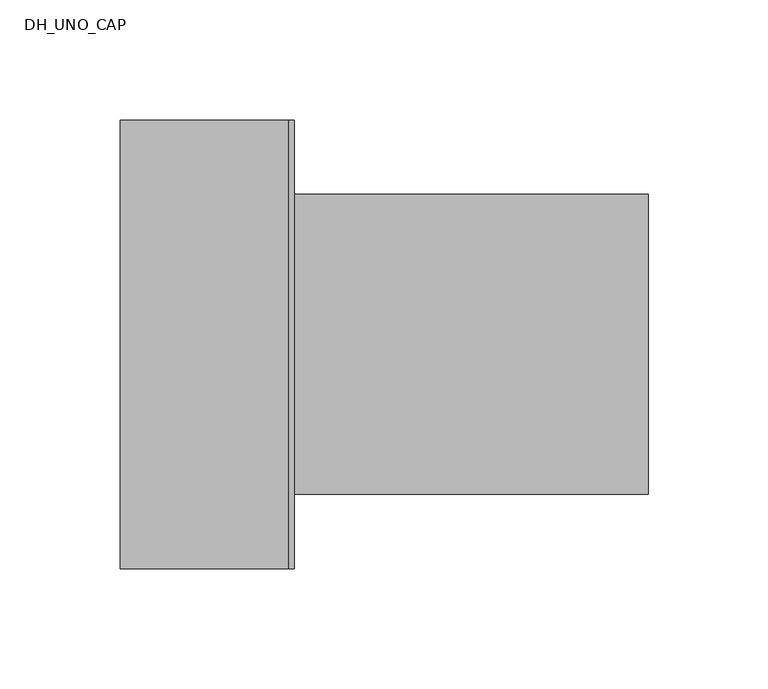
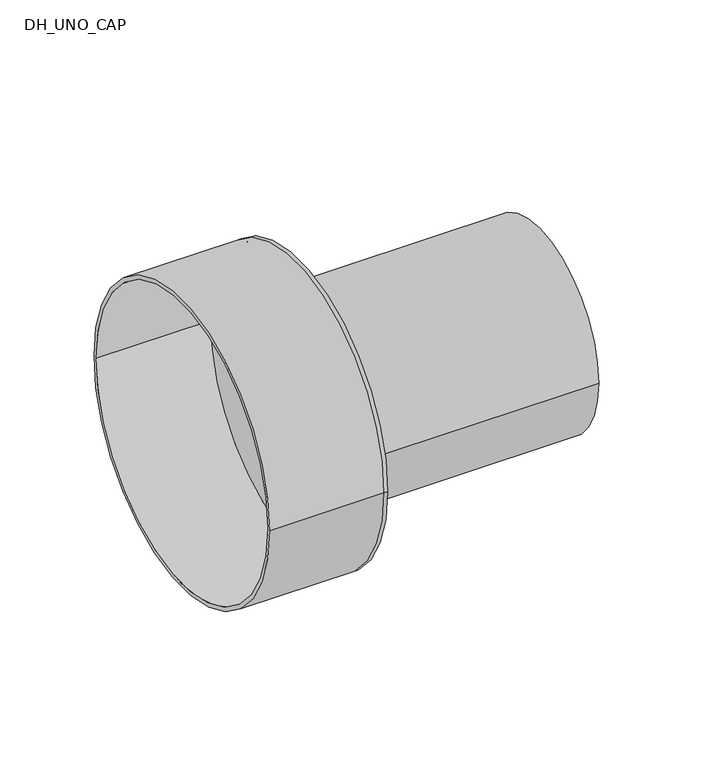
"""IFC4 building model written with IfcOpenShell, lengths in millimetres: pipe fitting geometry, DH_UNO_CAP : RAUTHERMEX UNO 11 Heating - Solid Cap."""

from ifc_helpers import new_model, si_unit, point, frame, origin, origin_2d, place, context, project, spatial, polyline, circle_curve, trimmed, segment, composite_curve, outline, extrude, source, transform, mapped, element, save
from ifc_brep_helpers import plane_surface, cylinder_surface, revolved_surface, advanced_brep


def dh_uno_cap_4363f071(model_context):
    return source(origin(), model_context, "Body", "SolidModel", [
        extrude(outline(composite_curve([segment(trimmed(circle_curve(origin_2d(), 62.5), [point((-62.5, 0.0))], [point((62.5, 0.0))], False, "CARTESIAN"), True, "CONTINUOUS"), segment(trimmed(circle_curve(origin_2d(), 62.5), [point((62.5, 0.0))], [point((-62.5, 0.0))], False, "CARTESIAN"), True, "CONTINUOUS")], self_intersect=False), holes=[composite_curve([segment(trimmed(circle_curve(origin_2d(), 51.1), [point((-51.1, 0.0))], [point((51.1, 0.0))], True, "CARTESIAN"), True, "CONTINUOUS"), segment(trimmed(circle_curve(origin_2d(), 51.1), [point((51.1, 0.0))], [point((-51.1, 0.0))], True, "CARTESIAN"), True, "CONTINUOUS")], self_intersect=False)]), frame((0.0, 0.0, 0.0), z_axis=(1.0, 0.0, 0.0), x_axis=(0.0, 1.0, 0.0)), (0.0, 0.0, 1.0), 150.0),
        advanced_brep(
        [(-70.0, -93.5, 0.0), (-70.0, 93.5, 0.0), (-70.0, -91.0, 0.0), (-70.0, 91.0, 0.0), (0.0, -91.0, 0.0), (0.0, 91.0, 0.0), (0.0, -93.5, 0.0), (0.0, 93.5, 0.0), (0.0, 62.5, 0.0), (0.0, -62.5, 0.0), (2.5, -93.5, 0.0), (2.5, 93.5, 0.0), (2.5, -62.5, 0.0), (2.5, 62.5, 0.0)],
        [
            (0, 1, circle_curve(frame((-70.0, 0.0, 0.0), z_axis=(-1.0, 0.0, 0.0), x_axis=(0.0, 1.0, 0.0)), 93.5)),
            (1, 0, circle_curve(frame((-70.0, 0.0, 0.0), z_axis=(-1.0, 0.0, 0.0), x_axis=(0.0, 1.0, 0.0)), 93.5)),
            (2, 3, circle_curve(frame((-70.0, 0.0, 0.0), z_axis=(1.0, 0.0, 0.0), x_axis=(0.0, 1.0, 0.0)), 91.0)),
            (3, 2, circle_curve(frame((-70.0, 0.0, 0.0), z_axis=(1.0, 0.0, 0.0), x_axis=(0.0, 1.0, 0.0)), 91.0)),
            (2, 4),
            (4, 5, circle_curve(frame((0.0, 0.0, 0.0), z_axis=(1.0, 0.0, 0.0), x_axis=(0.0, 1.0, 0.0)), 91.0)),
            (5, 3),
            (5, 4, circle_curve(frame((0.0, 0.0, 0.0), z_axis=(1.0, 0.0, 0.0), x_axis=(0.0, 1.0, 0.0)), 91.0)),
            (0, 6),
            (6, 7, circle_curve(frame((0.0, 0.0, 0.0), z_axis=(-1.0, 0.0, 0.0), x_axis=(0.0, 1.0, 0.0)), 93.5)),
            (7, 1),
            (7, 6, circle_curve(frame((0.0, 0.0, 0.0), z_axis=(-1.0, 0.0, 0.0), x_axis=(0.0, 1.0, 0.0)), 93.5)),
            (8, 9, circle_curve(frame((0.0, 0.0, 0.0), z_axis=(1.0, 0.0, 0.0), x_axis=(0.0, 1.0, 0.0)), 62.5)),
            (9, 8, circle_curve(frame((0.0, 0.0, 0.0), z_axis=(1.0, 0.0, 0.0), x_axis=(0.0, 1.0, 0.0)), 62.5)),
            (10, 11, circle_curve(frame((2.5, 0.0, 0.0), z_axis=(1.0, 0.0, 0.0), x_axis=(0.0, 1.0, 0.0)), 93.5)),
            (11, 10, circle_curve(frame((2.5, 0.0, 0.0), z_axis=(1.0, 0.0, 0.0), x_axis=(0.0, 1.0, 0.0)), 93.5)),
            (12, 13, circle_curve(frame((2.5, 0.0, 0.0), z_axis=(-1.0, 0.0, 0.0), x_axis=(0.0, 1.0, 0.0)), 62.5)),
            (13, 12, circle_curve(frame((2.5, 0.0, 0.0), z_axis=(-1.0, 0.0, 0.0), x_axis=(0.0, 1.0, 0.0)), 62.5)),
            (11, 7),
            (6, 10),
            (8, 13),
            (12, 9),
        ],
        [
            plane_surface(frame((-70.0, 0.0, 0.0), z_axis=(-1.0, 0.0, 0.0), x_axis=(0.0, 0.0, 1.0))),
            revolved_surface(polyline([(0.0, 91.0, 0.0), (-70.0, 91.0, 0.0)]), (-70.0, 0.0, 0.0), (1.0, 0.0, 0.0)),
            cylinder_surface(frame((-70.0, 0.0, 0.0), z_axis=(-1.0, 0.0, 0.0), x_axis=(0.0, 1.0, 0.0)), 93.5),
            plane_surface(frame((0.0, 0.0, 0.0), z_axis=(-1.0, 0.0, 0.0), x_axis=(0.0, 0.0, 1.0))),
            plane_surface(frame((2.5, 0.0, 0.0), z_axis=(1.0, 0.0, 0.0), x_axis=(0.0, 0.0, 1.0))),
            cylinder_surface(frame((0.0, 0.0, 0.0), z_axis=(-1.0, 0.0, 0.0), x_axis=(0.0, 1.0, 0.0)), 93.5),
            revolved_surface(polyline([(0.0, 62.5, 0.0), (2.5, 62.5, 0.0)]), (0.0, 0.0, 0.0), (-1.0, 0.0, 0.0)),
        ],
        [
            (0, [[1, 2], [3, 4]]),
            (1, [[-3, 5, 6, 7]]),
            (1, [[-4, -7, 8, -5]]),
            (2, [[-1, 9, 10, 11]]),
            (2, [[-2, -11, 12, -9]]),
            (3, [[-6, -8], [13, 14]]),
            (4, [[15, 16], [17, 18]]),
            (5, [[-16, 19, -10, 20]]),
            (5, [[-15, -20, -12, -19]]),
            (6, [[21, -17, 22, -13]]),
            (6, [[-21, -14, -22, -18]]),
        ],
    ),
    ])


if __name__ == "__main__":
    model = new_model("IFC4")
    model_context = context("Model", 3, world=origin())
    ifc_project = project(units=[si_unit("LENGTHUNIT", "METRE", prefix="MILLI")], contexts=[model_context])
    site = spatial("IfcSite", under=ifc_project)
    building = spatial("IfcBuilding", under=site)
    placement = place(None, origin())
    dh_uno_cap_shape = dh_uno_cap_4363f071(model_context)
    element("IfcPipeFitting", 1, ObjectType="DH_UNO_CAP : RAUTHERMEX UNO 11 Heating - Solid Cap", at=placement, inside=building, context=model_context, shape_type="MappedRepresentation", body=[
        mapped(dh_uno_cap_shape, transform((0.0, 0.0, 0.0), x_axis=(1.0, 0.0, 0.0), y_axis=(0.0, 1.0, 0.0), z_axis=(0.0, 0.0, 1.0))),
    ])
    save(model, "model.ifc")
